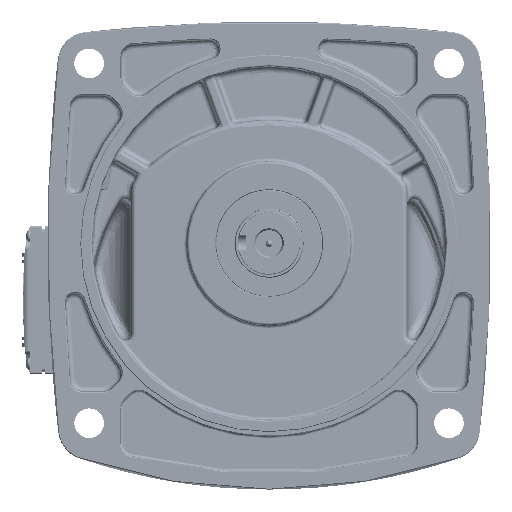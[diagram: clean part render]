
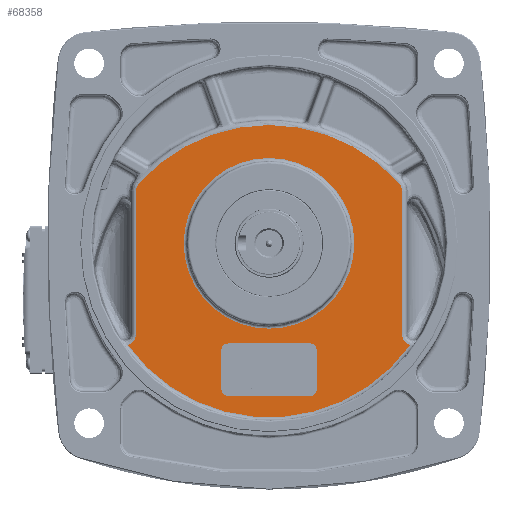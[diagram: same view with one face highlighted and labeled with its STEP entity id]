
A CAD part, top view. The second image highlights one B-rep face of the part: STEP entity #68358.
In plain terms, the highlighted planar face has unit normal (0, 0, 1).
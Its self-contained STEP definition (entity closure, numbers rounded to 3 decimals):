
#2262=LINE('',#144330,#5198);
#2266=LINE('',#144342,#5202);
#2270=LINE('',#144354,#5206);
#2367=LINE('',#144630,#5303);
#2607=LINE('',#151388,#5543);
#2608=LINE('',#151403,#5544);
#5198=VECTOR('',#86586,10.);
#5202=VECTOR('',#86598,10.);
#5206=VECTOR('',#86610,10.);
#5303=VECTOR('',#86857,10.);
#5543=VECTOR('',#88173,10.);
#5544=VECTOR('',#88176,10.);
#7950=FACE_BOUND('',#16302,.T.);
#7951=FACE_BOUND('',#16303,.T.);
#8722=PLANE('',#74454);
#12016=FACE_OUTER_BOUND('',#16301,.T.);
#16301=EDGE_LOOP('',(#54701,#54702,#54703,#54704,#54705,#54706,#54707,#54708));
#16302=EDGE_LOOP('',(#54709,#54710,#54711,#54712,#54713,#54714,#54715,#54716));
#16303=EDGE_LOOP('',(#54717));
#20130=CIRCLE('',#73832,4.);
#20132=CIRCLE('',#73836,4.);
#20134=CIRCLE('',#73840,4.);
#20136=CIRCLE('',#73844,4.);
#20457=CIRCLE('',#74450,105.999);
#20461=CIRCLE('',#74455,106.076);
#20462=CIRCLE('',#74456,52.);
#23930=B_SPLINE_CURVE_WITH_KNOTS('',3,(#151363,#151364,#151365,#151366,
#151367,#151368),.UNSPECIFIED.,.F.,.F.,(4,1,1,4),(0.901,1.027,
1.54,1.797),.UNSPECIFIED.);
#23932=B_SPLINE_CURVE_WITH_KNOTS('',3,(#151380,#151381,#151382,#151383,
#151384,#151385,#151386),.UNSPECIFIED.,.F.,.F.,(4,1,1,1,4),(0.,
0.257,0.513,0.77,0.896),
 .UNSPECIFIED.);
#23933=B_SPLINE_CURVE_WITH_KNOTS('',3,(#151390,#151391,#151392,#151393,
#151394),.UNSPECIFIED.,.F.,.F.,(4,1,4),(0.,0.217,0.507),
 .UNSPECIFIED.);
#23934=B_SPLINE_CURVE_WITH_KNOTS('',3,(#151398,#151399,#151400,#151401,
#151402),.UNSPECIFIED.,.F.,.F.,(4,1,4),(0.,0.29,0.507),
 .UNSPECIFIED.);
#28597=VERTEX_POINT('',#144320);
#28598=VERTEX_POINT('',#144322);
#28600=VERTEX_POINT('',#144328);
#28602=VERTEX_POINT('',#144334);
#28604=VERTEX_POINT('',#144340);
#28606=VERTEX_POINT('',#144346);
#28608=VERTEX_POINT('',#144352);
#28610=VERTEX_POINT('',#144358);
#29128=VERTEX_POINT('',#151157);
#29129=VERTEX_POINT('',#151159);
#29133=VERTEX_POINT('',#151362);
#29135=VERTEX_POINT('',#151379);
#29136=VERTEX_POINT('',#151387);
#29137=VERTEX_POINT('',#151389);
#29138=VERTEX_POINT('',#151395);
#29139=VERTEX_POINT('',#151397);
#29140=VERTEX_POINT('',#151404);
#37010=EDGE_CURVE('',#28597,#28598,#20130,.T.);
#37014=EDGE_CURVE('',#28597,#28600,#2262,.T.);
#37017=EDGE_CURVE('',#28602,#28600,#20132,.T.);
#37020=EDGE_CURVE('',#28602,#28604,#2266,.T.);
#37023=EDGE_CURVE('',#28606,#28604,#20134,.T.);
#37026=EDGE_CURVE('',#28606,#28608,#2270,.T.);
#37029=EDGE_CURVE('',#28610,#28608,#20136,.T.);
#37165=EDGE_CURVE('',#28610,#28598,#2367,.T.);
#37930=EDGE_CURVE('',#29128,#29129,#20457,.T.);
#37937=EDGE_CURVE('',#29129,#29133,#23930,.T.);
#37940=EDGE_CURVE('',#29135,#29128,#23932,.T.);
#37941=EDGE_CURVE('',#29136,#29135,#2607,.T.);
#37942=EDGE_CURVE('',#29137,#29136,#23933,.T.);
#37943=EDGE_CURVE('',#29138,#29137,#20461,.T.);
#37944=EDGE_CURVE('',#29139,#29138,#23934,.T.);
#37945=EDGE_CURVE('',#29133,#29139,#2608,.T.);
#37946=EDGE_CURVE('',#29140,#29140,#20462,.T.);
#54701=ORIENTED_EDGE('',*,*,#37930,.F.);
#54702=ORIENTED_EDGE('',*,*,#37940,.F.);
#54703=ORIENTED_EDGE('',*,*,#37941,.F.);
#54704=ORIENTED_EDGE('',*,*,#37942,.F.);
#54705=ORIENTED_EDGE('',*,*,#37943,.F.);
#54706=ORIENTED_EDGE('',*,*,#37944,.F.);
#54707=ORIENTED_EDGE('',*,*,#37945,.F.);
#54708=ORIENTED_EDGE('',*,*,#37937,.F.);
#54709=ORIENTED_EDGE('',*,*,#37026,.T.);
#54710=ORIENTED_EDGE('',*,*,#37029,.F.);
#54711=ORIENTED_EDGE('',*,*,#37165,.T.);
#54712=ORIENTED_EDGE('',*,*,#37010,.F.);
#54713=ORIENTED_EDGE('',*,*,#37014,.T.);
#54714=ORIENTED_EDGE('',*,*,#37017,.F.);
#54715=ORIENTED_EDGE('',*,*,#37020,.T.);
#54716=ORIENTED_EDGE('',*,*,#37023,.F.);
#54717=ORIENTED_EDGE('',*,*,#37946,.F.);
#68358=ADVANCED_FACE('',(#12016,#7950,#7951),#8722,.F.);
#73832=AXIS2_PLACEMENT_3D('',#144323,#86579,#86580);
#73836=AXIS2_PLACEMENT_3D('',#144336,#86592,#86593);
#73840=AXIS2_PLACEMENT_3D('',#144348,#86604,#86605);
#73844=AXIS2_PLACEMENT_3D('',#144360,#86616,#86617);
#74450=AXIS2_PLACEMENT_3D('',#151160,#88163,#88164);
#74454=AXIS2_PLACEMENT_3D('',#151378,#88171,#88172);
#74455=AXIS2_PLACEMENT_3D('',#151396,#88174,#88175);
#74456=AXIS2_PLACEMENT_3D('',#151405,#88177,#88178);
#86579=DIRECTION('center_axis',(0.,0.,1.));
#86580=DIRECTION('ref_axis',(0.707,0.707,0.));
#86586=DIRECTION('',(0.,-1.,0.));
#86592=DIRECTION('center_axis',(0.,0.,1.));
#86593=DIRECTION('ref_axis',(0.707,-0.707,0.));
#86598=DIRECTION('',(-1.,0.,0.));
#86604=DIRECTION('center_axis',(0.,0.,1.));
#86605=DIRECTION('ref_axis',(-0.707,-0.707,0.));
#86610=DIRECTION('',(0.,1.,0.));
#86616=DIRECTION('center_axis',(0.,0.,1.));
#86617=DIRECTION('ref_axis',(-0.707,0.707,0.));
#86857=DIRECTION('',(1.,0.,0.));
#88163=DIRECTION('center_axis',(0.,0.,-1.));
#88164=DIRECTION('ref_axis',(0.,-1.,0.));
#88171=DIRECTION('center_axis',(0.,0.,-1.));
#88172=DIRECTION('ref_axis',(-1.,0.,0.));
#88173=DIRECTION('',(0.,-1.,0.));
#88174=DIRECTION('center_axis',(0.,0.,-1.));
#88175=DIRECTION('ref_axis',(0.,1.,0.));
#88176=DIRECTION('',(0.,1.,0.));
#88177=DIRECTION('center_axis',(0.,0.,1.));
#88178=DIRECTION('ref_axis',(-1.,0.,0.));
#144320=CARTESIAN_POINT('',(31.891,-30.92,88.));
#144322=CARTESIAN_POINT('',(27.891,-26.92,88.));
#144323=CARTESIAN_POINT('Origin',(27.891,-30.92,88.));
#144328=CARTESIAN_POINT('',(31.891,-54.92,88.));
#144330=CARTESIAN_POINT('',(31.891,-29.42,88.));
#144334=CARTESIAN_POINT('',(27.891,-58.92,88.));
#144336=CARTESIAN_POINT('Origin',(27.891,-54.92,88.));
#144340=CARTESIAN_POINT('',(-22.109,-58.92,88.));
#144342=CARTESIAN_POINT('',(-11.609,-58.92,88.));
#144346=CARTESIAN_POINT('',(-26.109,-54.92,88.));
#144348=CARTESIAN_POINT('Origin',(-22.109,-54.92,88.));
#144352=CARTESIAN_POINT('',(-26.109,-30.92,88.));
#144354=CARTESIAN_POINT('',(-26.109,-13.42,88.));
#144358=CARTESIAN_POINT('',(-22.109,-26.92,88.));
#144360=CARTESIAN_POINT('Origin',(-22.109,-30.92,88.));
#144630=CARTESIAN_POINT('',(17.391,-26.92,88.));
#151157=CARTESIAN_POINT('',(88.925,-27.839,88.));
#151159=CARTESIAN_POINT('',(-83.143,-27.839,88.));
#151160=CARTESIAN_POINT('Origin',(2.891,34.08,88.));
#151362=CARTESIAN_POINT('',(-78.109,-21.114,88.));
#151363=CARTESIAN_POINT('Ctrl Pts',(-83.144,-27.838,
88.));
#151364=CARTESIAN_POINT('Ctrl Pts',(-82.738,-27.721,
88.));
#151365=CARTESIAN_POINT('Ctrl Pts',(-80.734,-26.943,
88.));
#151366=CARTESIAN_POINT('Ctrl Pts',(-78.576,-24.563,
88.));
#151367=CARTESIAN_POINT('Ctrl Pts',(-78.109,-21.97,
88.));
#151368=CARTESIAN_POINT('Ctrl Pts',(-78.109,-21.114,
88.));
#151378=CARTESIAN_POINT('Origin',(2.891,0.08,88.));
#151379=CARTESIAN_POINT('',(83.891,-21.114,88.));
#151380=CARTESIAN_POINT('Ctrl Pts',(83.891,-21.114,
88.));
#151381=CARTESIAN_POINT('Ctrl Pts',(83.891,-21.97,
88.));
#151382=CARTESIAN_POINT('Ctrl Pts',(84.21,-23.7,
88.));
#151383=CARTESIAN_POINT('Ctrl Pts',(85.588,-25.927,
88.));
#151384=CARTESIAN_POINT('Ctrl Pts',(87.32,-27.254,
88.));
#151385=CARTESIAN_POINT('Ctrl Pts',(88.52,-27.72,
88.));
#151386=CARTESIAN_POINT('Ctrl Pts',(88.926,-27.837,
88.));
#151387=CARTESIAN_POINT('',(83.891,65.956,88.));
#151388=CARTESIAN_POINT('',(83.891,-47.92,88.));
#151389=CARTESIAN_POINT('',(82.117,70.616,88.));
#151390=CARTESIAN_POINT('Ctrl Pts',(82.117,70.616,88.));
#151391=CARTESIAN_POINT('Ctrl Pts',(82.599,70.075,88.));
#151392=CARTESIAN_POINT('Ctrl Pts',(83.534,68.625,88.));
#151393=CARTESIAN_POINT('Ctrl Pts',(83.891,66.921,88.));
#151394=CARTESIAN_POINT('Ctrl Pts',(83.891,65.956,88.));
#151395=CARTESIAN_POINT('',(-76.336,70.616,88.));
#151396=CARTESIAN_POINT('Origin',(2.891,0.08,88.));
#151397=CARTESIAN_POINT('',(-78.109,65.956,88.));
#151398=CARTESIAN_POINT('Ctrl Pts',(-78.109,65.956,88.));
#151399=CARTESIAN_POINT('Ctrl Pts',(-78.109,66.921,88.));
#151400=CARTESIAN_POINT('Ctrl Pts',(-77.752,68.625,88.));
#151401=CARTESIAN_POINT('Ctrl Pts',(-76.817,70.075,
88.));
#151402=CARTESIAN_POINT('Ctrl Pts',(-76.336,70.616,
88.));
#151403=CARTESIAN_POINT('',(-78.109,-47.92,88.));
#151404=CARTESIAN_POINT('',(54.891,34.08,88.));
#151405=CARTESIAN_POINT('Origin',(2.891,34.08,88.));
